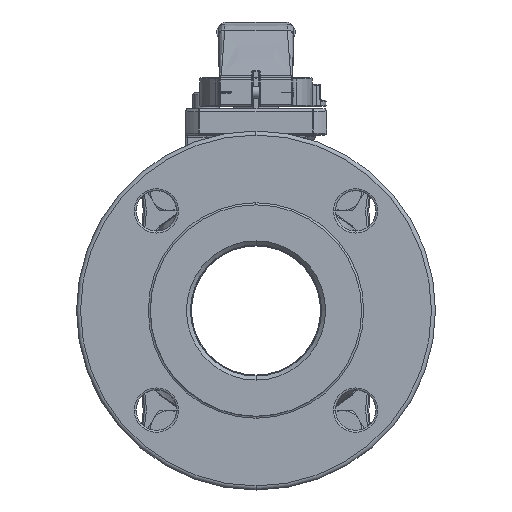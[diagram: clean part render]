
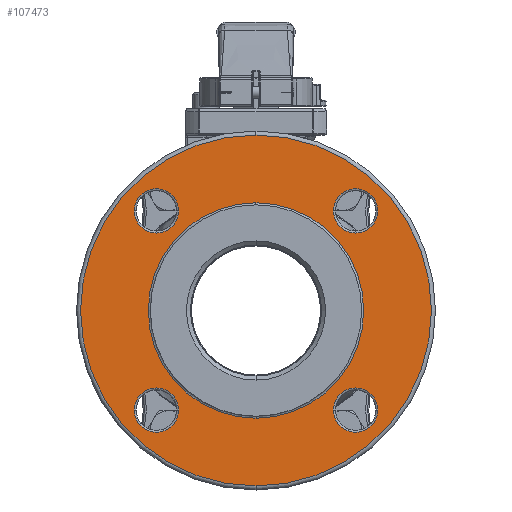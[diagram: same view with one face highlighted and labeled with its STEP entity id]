
A CAD part, left-side view. The second image highlights one B-rep face of the part: STEP entity #107473.
In plain terms, the highlighted planar face has unit normal (-1, 0, 0).
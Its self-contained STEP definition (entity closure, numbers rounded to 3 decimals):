
#30573=CARTESIAN_POINT('',(-64.4,0.,0.));
#30574=DIRECTION('',(1.,0.,0.));
#30575=DIRECTION('',(0.,0.,1.));
#30576=AXIS2_PLACEMENT_3D('',#30573,#30574,#30575);
#30588=CARTESIAN_POINT('',(-64.4,0.,0.));
#30589=DIRECTION('',(1.,0.,0.));
#30590=DIRECTION('',(0.,0.,-1.));
#30591=AXIS2_PLACEMENT_3D('',#30588,#30589,#30590);
#30606=CARTESIAN_POINT('',(-64.4,0.,0.));
#30607=DIRECTION('',(-1.,0.,0.));
#30608=DIRECTION('',(0.,0.,1.));
#30609=AXIS2_PLACEMENT_3D('',#30606,#30607,#30608);
#30621=CARTESIAN_POINT('',(-64.4,0.,0.));
#30622=DIRECTION('',(-1.,0.,0.));
#30623=DIRECTION('',(0.,0.,-1.));
#30624=AXIS2_PLACEMENT_3D('',#30621,#30622,#30623);
#30664=CARTESIAN_POINT('',(-64.4,-49.391,49.391));
#30665=DIRECTION('',(1.,0.,0.));
#30666=DIRECTION('',(0.,-1.,0.));
#30667=AXIS2_PLACEMENT_3D('',#30664,#30665,#30666);
#30679=CARTESIAN_POINT('',(-64.4,-49.391,49.391));
#30680=DIRECTION('',(1.,0.,0.));
#30681=DIRECTION('',(0.,1.,0.));
#30682=AXIS2_PLACEMENT_3D('',#30679,#30680,#30681);
#30732=CARTESIAN_POINT('',(-64.4,49.391,49.391));
#30733=DIRECTION('',(1.,0.,0.));
#30734=DIRECTION('',(0.,-1.,0.));
#30735=AXIS2_PLACEMENT_3D('',#30732,#30733,#30734);
#30747=CARTESIAN_POINT('',(-64.4,49.391,49.391));
#30748=DIRECTION('',(1.,0.,0.));
#30749=DIRECTION('',(0.,1.,0.));
#30750=AXIS2_PLACEMENT_3D('',#30747,#30748,#30749);
#30800=CARTESIAN_POINT('',(-64.4,49.391,-49.391));
#30801=DIRECTION('',(1.,0.,0.));
#30802=DIRECTION('',(0.,1.,0.));
#30803=AXIS2_PLACEMENT_3D('',#30800,#30801,#30802);
#30815=CARTESIAN_POINT('',(-64.4,49.391,-49.391));
#30816=DIRECTION('',(1.,0.,0.));
#30817=DIRECTION('',(0.,-1.,0.));
#30818=AXIS2_PLACEMENT_3D('',#30815,#30816,#30817);
#30868=CARTESIAN_POINT('',(-64.4,-49.391,-49.391));
#30869=DIRECTION('',(1.,0.,0.));
#30870=DIRECTION('',(0.,1.,0.));
#30871=AXIS2_PLACEMENT_3D('',#30868,#30869,#30870);
#30883=CARTESIAN_POINT('',(-64.4,-49.391,-49.391));
#30884=DIRECTION('',(1.,0.,0.));
#30885=DIRECTION('',(0.,-1.,0.));
#30886=AXIS2_PLACEMENT_3D('',#30883,#30884,#30885);
#50410=CARTESIAN_POINT('',(-64.4,0.,-87.));
#50411=CARTESIAN_POINT('',(-64.4,0.,87.));
#50412=VERTEX_POINT('',#50410);
#50413=VERTEX_POINT('',#50411);
#50422=CARTESIAN_POINT('',(-64.4,0.,53.4));
#50423=CARTESIAN_POINT('',(-64.4,0.,-53.4));
#50424=VERTEX_POINT('',#50422);
#50425=VERTEX_POINT('',#50423);
#50430=CARTESIAN_POINT('',(-64.4,-60.391,49.391));
#50431=CARTESIAN_POINT('',(-64.4,-38.391,49.391));
#50432=VERTEX_POINT('',#50430);
#50433=VERTEX_POINT('',#50431);
#50438=CARTESIAN_POINT('',(-64.4,38.391,49.391));
#50439=CARTESIAN_POINT('',(-64.4,60.391,49.391));
#50440=VERTEX_POINT('',#50438);
#50441=VERTEX_POINT('',#50439);
#50446=CARTESIAN_POINT('',(-64.4,60.391,-49.391));
#50447=CARTESIAN_POINT('',(-64.4,38.391,-49.391));
#50448=VERTEX_POINT('',#50446);
#50449=VERTEX_POINT('',#50447);
#50454=CARTESIAN_POINT('',(-64.4,-38.391,-49.391));
#50455=CARTESIAN_POINT('',(-64.4,-60.391,-49.391));
#50456=VERTEX_POINT('',#50454);
#50457=VERTEX_POINT('',#50455);
#107434=CARTESIAN_POINT('',(-64.4,0.,0.));
#107435=DIRECTION('',(-1.,0.,0.));
#107436=DIRECTION('',(0.,0.,1.));
#107437=AXIS2_PLACEMENT_3D('',#107434,#107435,#107436);
#107438=PLANE('',#107437);
#107439=ORIENTED_EDGE('',*,*,#107416,.T.);
#107440=ORIENTED_EDGE('',*,*,#107401,.T.);
#107441=EDGE_LOOP('',(#107439,#107440));
#107442=FACE_OUTER_BOUND('',#107441,.F.);
#107444=ORIENTED_EDGE('',*,*,#107443,.T.);
#107446=ORIENTED_EDGE('',*,*,#107445,.T.);
#107447=EDGE_LOOP('',(#107444,#107446));
#107448=FACE_BOUND('',#107447,.F.);
#107450=ORIENTED_EDGE('',*,*,#107449,.F.);
#107452=ORIENTED_EDGE('',*,*,#107451,.F.);
#107453=EDGE_LOOP('',(#107450,#107452));
#107454=FACE_BOUND('',#107453,.F.);
#107456=ORIENTED_EDGE('',*,*,#107455,.F.);
#107458=ORIENTED_EDGE('',*,*,#107457,.F.);
#107459=EDGE_LOOP('',(#107456,#107458));
#107460=FACE_BOUND('',#107459,.F.);
#107462=ORIENTED_EDGE('',*,*,#107461,.F.);
#107464=ORIENTED_EDGE('',*,*,#107463,.F.);
#107465=EDGE_LOOP('',(#107462,#107464));
#107466=FACE_BOUND('',#107465,.F.);
#107468=ORIENTED_EDGE('',*,*,#107467,.F.);
#107470=ORIENTED_EDGE('',*,*,#107469,.F.);
#107471=EDGE_LOOP('',(#107468,#107470));
#107472=FACE_BOUND('',#107471,.F.);
#107473=ADVANCED_FACE('',(#107442,#107448,#107454,#107460,#107466,#107472),
#107438,.T.);
#30577=CIRCLE('',#30576,87.);
#30592=CIRCLE('',#30591,87.);
#30610=CIRCLE('',#30609,53.4);
#30625=CIRCLE('',#30624,53.4);
#30668=CIRCLE('',#30667,11.);
#30683=CIRCLE('',#30682,11.);
#30736=CIRCLE('',#30735,11.);
#30751=CIRCLE('',#30750,11.);
#30804=CIRCLE('',#30803,11.);
#30819=CIRCLE('',#30818,11.);
#30872=CIRCLE('',#30871,11.);
#30887=CIRCLE('',#30886,11.);
#107401=EDGE_CURVE('',#50413,#50412,#30577,.T.);
#107416=EDGE_CURVE('',#50412,#50413,#30592,.T.);
#107443=EDGE_CURVE('',#50424,#50425,#30610,.T.);
#107445=EDGE_CURVE('',#50425,#50424,#30625,.T.);
#107449=EDGE_CURVE('',#50432,#50433,#30668,.T.);
#107451=EDGE_CURVE('',#50433,#50432,#30683,.T.);
#107455=EDGE_CURVE('',#50440,#50441,#30736,.T.);
#107457=EDGE_CURVE('',#50441,#50440,#30751,.T.);
#107461=EDGE_CURVE('',#50448,#50449,#30804,.T.);
#107463=EDGE_CURVE('',#50449,#50448,#30819,.T.);
#107467=EDGE_CURVE('',#50456,#50457,#30872,.T.);
#107469=EDGE_CURVE('',#50457,#50456,#30887,.T.);
